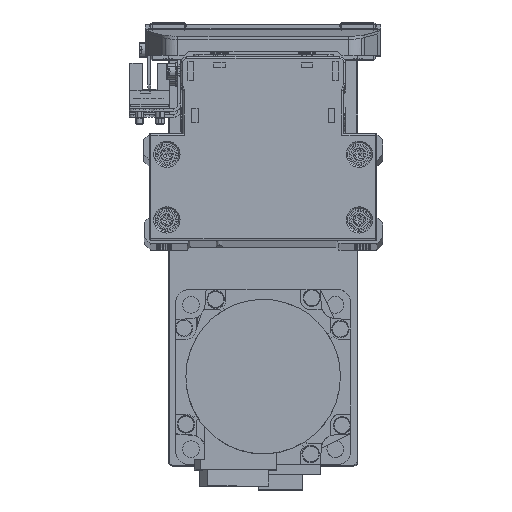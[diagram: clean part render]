
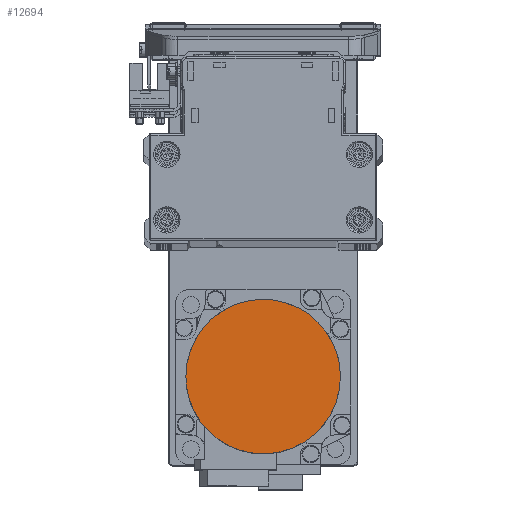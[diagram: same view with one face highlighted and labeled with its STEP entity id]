
A CAD part, top view. The second image highlights one B-rep face of the part: STEP entity #12694.
In plain terms, the highlighted planar face has unit normal (0, 0, 1) as drawn and (0, 0, -1) by its records, which use the part's own axes.
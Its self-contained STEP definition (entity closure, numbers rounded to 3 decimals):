
#218 = CARTESIAN_POINT ( 'NONE',  ( -23.819, -11.744, -88. ) ) ;
#432 = CARTESIAN_POINT ( 'NONE',  ( 3.469, -26.329, -88. ) ) ;
#641 = CARTESIAN_POINT ( 'NONE',  ( 26.329, -3.469, -88. ) ) ;
#1761 = CARTESIAN_POINT ( 'NONE',  ( 26.329, 3.469, -88. ) ) ;
#1963 = CARTESIAN_POINT ( 'NONE',  ( 3.469, 26.329, -88. ) ) ;
#2181 = CARTESIAN_POINT ( 'NONE',  ( -23.819, 11.744, -88. ) ) ;
#3433 = CARTESIAN_POINT ( 'NONE',  ( -26.329, -3.469, -88. ) ) ;
#3657 = CARTESIAN_POINT ( 'NONE',  ( -3.469, -26.329, -88. ) ) ;
#3863 = CARTESIAN_POINT ( 'NONE',  ( 23.819, -11.744, -88. ) ) ;
#4432 = DIRECTION ( 'NONE',  ( 1., 0., 0. ) ) ;
#5065 = VERTEX_POINT ( 'NONE', #29502 ) ;
#5183 = CARTESIAN_POINT ( 'NONE',  ( 11.744, 23.819, -88. ) ) ;
#5384 = CARTESIAN_POINT ( 'NONE',  ( -19.965, 17.512, -88. ) ) ;
#6836 = EDGE_CURVE ( 'NONE', #20599, #5065, #26577, .T. ) ;
#6873 = CARTESIAN_POINT ( 'NONE',  ( -11.744, -23.819, -88. ) ) ;
#7097 = CARTESIAN_POINT ( 'NONE',  ( 19.965, -17.512, -88. ) ) ;
#7653 = PLANE ( 'NONE',  #10958 ) ;
#8415 = CARTESIAN_POINT ( 'NONE',  ( 17.512, 19.965, -88. ) ) ;
#8631 = CARTESIAN_POINT ( 'NONE',  ( -13.28, 22.998, -88. ) ) ;
#10096 = CARTESIAN_POINT ( 'NONE',  ( -17.512, -19.965, -88. ) ) ;
#10314 = CARTESIAN_POINT ( 'NONE',  ( 13.28, -22.998, -88. ) ) ;
#10958 = AXIS2_PLACEMENT_3D ( 'NONE', #20736, #33826, #4432 ) ;
#11618 = CARTESIAN_POINT ( 'NONE',  ( 22.998, 13.28, -88. ) ) ;
#11830 = CARTESIAN_POINT ( 'NONE',  ( -6.871, 25.652, -88. ) ) ;
#12037 = CARTESIAN_POINT ( 'NONE',  ( -26.5, 1.734, -88. ) ) ;
#12694 = ADVANCED_FACE ( 'NONE', ( #37044 ), #7653, .F. ) ;
#13309 = CARTESIAN_POINT ( 'NONE',  ( -22.998, -13.28, -88. ) ) ;
#13515 = CARTESIAN_POINT ( 'NONE',  ( 6.871, -25.652, -88. ) ) ;
#13734 = CARTESIAN_POINT ( 'NONE',  ( 26.5, -1.734, -88. ) ) ;
#14535 = ORIENTED_EDGE ( 'NONE', *, *, #34290, .F. ) ;
#14823 = CARTESIAN_POINT ( 'NONE',  ( 25.652, 6.871, -88. ) ) ;
#15032 = CARTESIAN_POINT ( 'NONE',  ( 1.734, 26.5, -88. ) ) ;
#15251 = CARTESIAN_POINT ( 'NONE',  ( -25.147, 8.539, -88. ) ) ;
#16507 = CARTESIAN_POINT ( 'NONE',  ( -25.652, -6.871, -88. ) ) ;
#16735 = CARTESIAN_POINT ( 'NONE',  ( -1.734, -26.5, -88. ) ) ;
#16937 = CARTESIAN_POINT ( 'NONE',  ( 25.147, -8.539, -88. ) ) ;
#18056 = CARTESIAN_POINT ( 'NONE',  ( 26.5, 0., -88. ) ) ;
#18255 = CARTESIAN_POINT ( 'NONE',  ( 8.539, 25.147, -88. ) ) ;
#18467 = CARTESIAN_POINT ( 'NONE',  ( -21.07, 16.165, -88. ) ) ;
#18867 = CARTESIAN_POINT ( 'NONE',  ( 26.5, 0., -88. ) ) ;
#19736 = CARTESIAN_POINT ( 'NONE',  ( -26.5, 0., -88. ) ) ;
#19966 = CARTESIAN_POINT ( 'NONE',  ( -8.539, -25.147, -88. ) ) ;
#20192 = CARTESIAN_POINT ( 'NONE',  ( 21.07, -16.165, -88. ) ) ;
#20599 = VERTEX_POINT ( 'NONE', #18867 ) ;
#20736 = CARTESIAN_POINT ( 'NONE',  ( 0., 0., -88. ) ) ;
#21497 = CARTESIAN_POINT ( 'NONE',  ( 16.165, 21.07, -88. ) ) ;
#21696 = CARTESIAN_POINT ( 'NONE',  ( -16.165, 21.07, -88. ) ) ;
#23179 = CARTESIAN_POINT ( 'NONE',  ( -16.165, -21.07, -88. ) ) ;
#23401 = CARTESIAN_POINT ( 'NONE',  ( 16.165, -21.07, -88. ) ) ;
#24716 = CARTESIAN_POINT ( 'NONE',  ( 21.07, 16.165, -88. ) ) ;
#24927 = CARTESIAN_POINT ( 'NONE',  ( -8.539, 25.147, -88. ) ) ;
#25131 = CARTESIAN_POINT ( 'NONE',  ( -26.5, 0., -88. ) ) ;
#26409 = CARTESIAN_POINT ( 'NONE',  ( -21.07, -16.165, -88. ) ) ;
#26577 = B_SPLINE_CURVE_WITH_KNOTS ( 'NONE', 3,
 ( #18056, #31166, #1761, #14823, #27927, #41015, #11618, #24716, #37804, #8415, #21497, #34582, #5183, #18255, #31359, #1963, #15032, #28139, #41227, #11830, #24927, #38019, #8631, #21696, #34783, #5384, #18467, #31577, #2181, #15251, #28358, #41447, #12037, #25131 ),
 .UNSPECIFIED., .F., .F.,
 ( 4, 2, 2, 2, 2, 2, 2, 2, 2, 2, 2, 2, 2, 2, 2, 2, 4 ),
 ( 0., 0.063, 0.125, 0.188, 0.25, 0.313, 0.375, 0.438, 0.5, 0.563, 0.625, 0.688, 0.75, 0.813, 0.875, 0.938, 1. ),
 .UNSPECIFIED. ) ;
#26617 = CARTESIAN_POINT ( 'NONE',  ( 8.539, -25.147, -88. ) ) ;
#26829 = CARTESIAN_POINT ( 'NONE',  ( 26.5, 0., -88. ) ) ;
#27903 = EDGE_LOOP ( 'NONE', ( #39957, #14535 ) ) ;
#27927 = CARTESIAN_POINT ( 'NONE',  ( 25.147, 8.539, -88. ) ) ;
#28139 = CARTESIAN_POINT ( 'NONE',  ( -1.734, 26.5, -88. ) ) ;
#28358 = CARTESIAN_POINT ( 'NONE',  ( -25.652, 6.871, -88. ) ) ;
#28556 = B_SPLINE_CURVE_WITH_KNOTS ( 'NONE', 3,
 ( #19736, #32828, #3433, #16507, #29622, #218, #13309, #26409, #39481, #10096, #23179, #36265, #6873, #19966, #33055, #3657, #16735, #29841, #432, #13515, #26617, #39695, #10314, #23401, #36490, #7097, #20192, #33272, #3863, #16937, #30043, #641, #13734, #26829 ),
 .UNSPECIFIED., .F., .F.,
 ( 4, 2, 2, 2, 2, 2, 2, 2, 2, 2, 2, 2, 2, 2, 2, 2, 4 ),
 ( 0., 0.063, 0.125, 0.188, 0.25, 0.313, 0.375, 0.438, 0.5, 0.563, 0.625, 0.688, 0.75, 0.813, 0.875, 0.938, 1. ),
 .UNSPECIFIED. ) ;
#29502 = CARTESIAN_POINT ( 'NONE',  ( -26.5, 0., -88. ) ) ;
#29622 = CARTESIAN_POINT ( 'NONE',  ( -25.147, -8.539, -88. ) ) ;
#29841 = CARTESIAN_POINT ( 'NONE',  ( 1.734, -26.5, -88. ) ) ;
#30043 = CARTESIAN_POINT ( 'NONE',  ( 25.652, -6.871, -88. ) ) ;
#31166 = CARTESIAN_POINT ( 'NONE',  ( 26.5, 1.734, -88. ) ) ;
#31359 = CARTESIAN_POINT ( 'NONE',  ( 6.871, 25.652, -88. ) ) ;
#31577 = CARTESIAN_POINT ( 'NONE',  ( -22.998, 13.28, -88. ) ) ;
#32828 = CARTESIAN_POINT ( 'NONE',  ( -26.5, -1.734, -88. ) ) ;
#33055 = CARTESIAN_POINT ( 'NONE',  ( -6.871, -25.652, -88. ) ) ;
#33272 = CARTESIAN_POINT ( 'NONE',  ( 22.998, -13.28, -88. ) ) ;
#33826 = DIRECTION ( 'NONE',  ( 0., 0., 1. ) ) ;
#34290 = EDGE_CURVE ( 'NONE', #5065, #20599, #28556, .T. ) ;
#34582 = CARTESIAN_POINT ( 'NONE',  ( 13.28, 22.998, -88. ) ) ;
#34783 = CARTESIAN_POINT ( 'NONE',  ( -17.512, 19.965, -88. ) ) ;
#36265 = CARTESIAN_POINT ( 'NONE',  ( -13.28, -22.998, -88. ) ) ;
#36490 = CARTESIAN_POINT ( 'NONE',  ( 17.512, -19.965, -88. ) ) ;
#37044 = FACE_OUTER_BOUND ( 'NONE', #27903, .T. ) ;
#37804 = CARTESIAN_POINT ( 'NONE',  ( 19.965, 17.512, -88. ) ) ;
#38019 = CARTESIAN_POINT ( 'NONE',  ( -11.744, 23.819, -88. ) ) ;
#39481 = CARTESIAN_POINT ( 'NONE',  ( -19.965, -17.512, -88. ) ) ;
#39695 = CARTESIAN_POINT ( 'NONE',  ( 11.744, -23.819, -88. ) ) ;
#39957 = ORIENTED_EDGE ( 'NONE', *, *, #6836, .F. ) ;
#41015 = CARTESIAN_POINT ( 'NONE',  ( 23.819, 11.744, -88. ) ) ;
#41227 = CARTESIAN_POINT ( 'NONE',  ( -3.469, 26.329, -88. ) ) ;
#41447 = CARTESIAN_POINT ( 'NONE',  ( -26.329, 3.469, -88. ) ) ;
